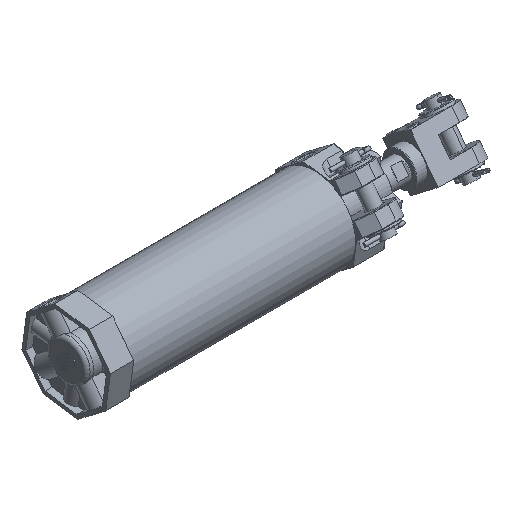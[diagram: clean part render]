
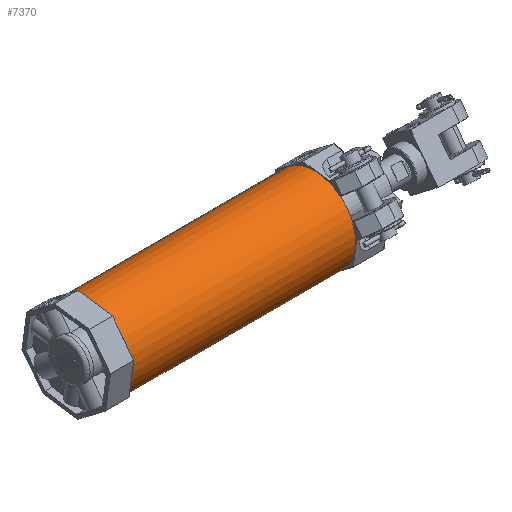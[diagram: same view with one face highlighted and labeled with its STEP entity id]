
A CAD part, isometric view. The second image highlights one B-rep face of the part: STEP entity #7370.
In plain terms, the highlighted cylindrical face has radius 35.5 mm (diameter 71 mm), a partial arc.
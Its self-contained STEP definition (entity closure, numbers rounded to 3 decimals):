
#7314=CARTESIAN_POINT('Axis2P3D Location',(96.5,0.,0.)) ;
#7319=CARTESIAN_POINT('Line Origine',(96.5,35.5,0.)) ;
#7323=CARTESIAN_POINT('Vertex',(0.,35.5,0.)) ;
#7325=CARTESIAN_POINT('Vertex',(193.,35.5,0.)) ;
#7332=CARTESIAN_POINT('Vertex',(0.,-35.5,0.)) ;
#7335=CARTESIAN_POINT('Line Origine',(96.5,-35.5,0.)) ;
#7339=CARTESIAN_POINT('Vertex',(193.,-35.5,0.)) ;
#7354=CARTESIAN_POINT('Axis2P3D Location',(0.,0.,0.)) ;
#7359=CARTESIAN_POINT('Axis2P3D Location',(193.,0.,0.)) ;
#7315=DIRECTION('Axis2P3D Direction',(1.,0.,0.)) ;
#7316=DIRECTION('Axis2P3D XDirection',(0.,1.,0.)) ;
#7320=DIRECTION('Vector Direction',(1.,0.,0.)) ;
#7336=DIRECTION('Vector Direction',(1.,0.,0.)) ;
#7355=DIRECTION('Axis2P3D Direction',(1.,0.,0.)) ;
#7360=DIRECTION('Axis2P3D Direction',(1.,0.,0.)) ;
#7317=AXIS2_PLACEMENT_3D('Cylinder Axis2P3D',#7314,#7315,#7316) ;
#7356=AXIS2_PLACEMENT_3D('Circle Axis2P3D',#7354,#7355,$) ;
#7361=AXIS2_PLACEMENT_3D('Circle Axis2P3D',#7359,#7360,$) ;
#7365=ORIENTED_EDGE('',*,*,#7341,.F.) ;
#7366=ORIENTED_EDGE('',*,*,#7358,.T.) ;
#7367=ORIENTED_EDGE('',*,*,#7327,.T.) ;
#7368=ORIENTED_EDGE('',*,*,#7363,.F.) ;
#7321=VECTOR('Line Direction',#7320,1.) ;
#7337=VECTOR('Line Direction',#7336,1.) ;
#7370=ADVANCED_FACE('PartBody',(#7369),#7318,.T.) ;
#7357=CIRCLE('generated circle',#7356,35.5) ;
#7362=CIRCLE('generated circle',#7361,35.5) ;
#7318=CYLINDRICAL_SURFACE('generated cylinder',#7317,35.5) ;
#7327=EDGE_CURVE('',#7324,#7326,#7322,.T.) ;
#7341=EDGE_CURVE('',#7333,#7340,#7338,.T.) ;
#7358=EDGE_CURVE('',#7333,#7324,#7357,.T.) ;
#7363=EDGE_CURVE('',#7340,#7326,#7362,.T.) ;
#7364=EDGE_LOOP('',(#7365,#7366,#7367,#7368)) ;
#7369=FACE_OUTER_BOUND('',#7364,.T.) ;
#7322=LINE('Line',#7319,#7321) ;
#7338=LINE('Line',#7335,#7337) ;
#7324=VERTEX_POINT('',#7323) ;
#7326=VERTEX_POINT('',#7325) ;
#7333=VERTEX_POINT('',#7332) ;
#7340=VERTEX_POINT('',#7339) ;
